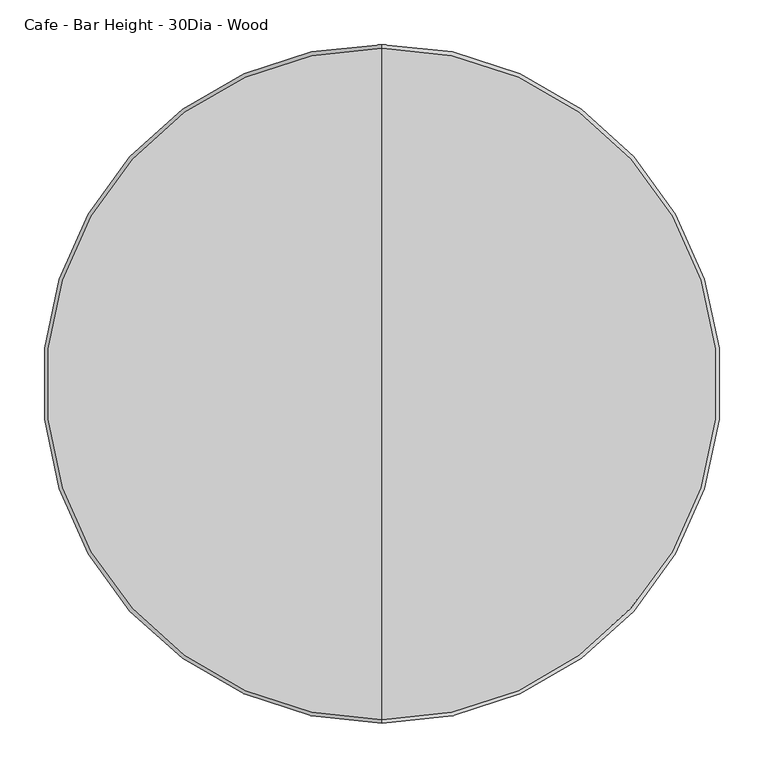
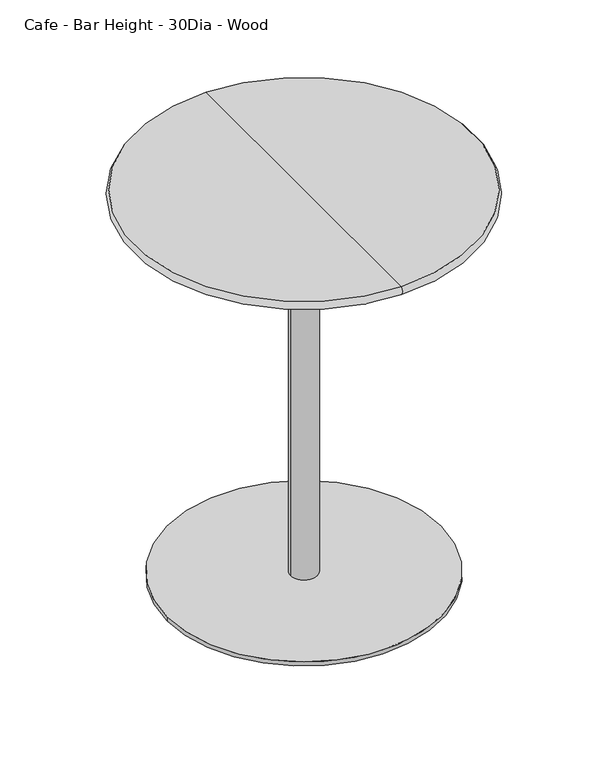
"""IFC4 building model written with IfcOpenShell, lengths in millimetres: furniture geometry, Steelcase Coalesse - Enea - Table - Single Base : Cafe - Bar Height - 30Dia - Wood."""

from ifc_helpers import new_model, si_unit, point, frame, frame_2d, origin, origin_with_axes, place, context, project, spatial, circle_curve, ellipse_curve, trimmed, segment, composite_curve, outline, extrude, source, transform, mapped, element, save
from ifc_brep_helpers import plane_surface, revolved_surface, advanced_brep


def cafe_bar_height_30dia_wood_b145a23f(model_context):
    return source(origin(), model_context, "Body", "SolidModel", [
        extrude(outline(composite_curve([segment(trimmed(circle_curve(frame_2d((537.718, -284.0746893)), 25.4), [point((512.318, -284.0746893))], [point((563.118, -284.0746893))], False, "CARTESIAN"), True, "CONTINUOUS"), segment(trimmed(circle_curve(frame_2d((537.718, -284.0746893)), 25.4), [point((563.118, -284.0746893))], [point((512.318, -284.0746893))], False, "CARTESIAN"), True, "CONTINUOUS")], self_intersect=False)), origin_with_axes(), (0.0, 0.0, 1.0), 6.35),
        extrude(outline(composite_curve([segment(trimmed(circle_curve(frame_2d((791.3613107, -537.3772238)), 25.4), [point((765.9613107, -537.3772238))], [point((816.7613107, -537.3772238))], False, "CARTESIAN"), True, "CONTINUOUS"), segment(trimmed(circle_curve(frame_2d((791.3613107, -537.3772238)), 25.4), [point((816.7613107, -537.3772238))], [point((765.9613107, -537.3772238))], False, "CARTESIAN"), True, "CONTINUOUS")], self_intersect=False)), origin_with_axes(), (0.0, 0.0, 1.0), 6.35),
        extrude(outline(composite_curve([segment(trimmed(circle_curve(frame_2d((284.0746893, -537.3772238)), 25.4), [point((258.6746893, -537.3772238))], [point((309.4746893, -537.3772238))], False, "CARTESIAN"), True, "CONTINUOUS"), segment(trimmed(circle_curve(frame_2d((284.0746893, -537.3772238)), 25.4), [point((309.4746893, -537.3772238))], [point((258.6746893, -537.3772238))], False, "CARTESIAN"), True, "CONTINUOUS")], self_intersect=False)), origin_with_axes(), (0.0, 0.0, 1.0), 6.35),
        extrude(outline(composite_curve([segment(trimmed(circle_curve(frame_2d((537.718, -790.6797584)), 25.4), [point((512.318, -790.6797584))], [point((563.118, -790.6797584))], False, "CARTESIAN"), True, "CONTINUOUS"), segment(trimmed(circle_curve(frame_2d((537.718, -790.6797584)), 25.4), [point((563.118, -790.6797584))], [point((512.318, -790.6797584))], False, "CARTESIAN"), True, "CONTINUOUS")], self_intersect=False)), origin_with_axes(), (0.0, 0.0, 1.0), 6.35),
        advanced_brep(
        [(537.718, -914.4075871, 914.4), (537.718, -161.0284129, 914.4), (537.718, -537.718, 914.4), (537.718, -914.4075871, 895.35), (537.718, -161.0284129, 895.35), (537.718, -537.718, 895.35)],
        [
            (0, 1, circle_curve(frame((537.718, -537.718, 914.4), z_axis=(0.0, 0.0, 1.0), x_axis=(0.0, 1.0, 0.0)), 376.6895871)),
            (1, 2),
            (2, 0),
            (1, 0, circle_curve(frame((537.718, -537.718, 914.4), z_axis=(0.0, 0.0, 1.0), x_axis=(0.0, 1.0, 0.0)), 376.6895871)),
            (3, 4, circle_curve(frame((537.718, -537.718, 895.35), z_axis=(0.0, 0.0, 1.0), x_axis=(0.0, 1.0, 0.0)), 376.6895871)),
            (4, 1, circle_curve(frame((537.718, -169.3968446, 904.875), z_axis=(1.0, 0.0, 0.0), x_axis=(0.0, -1.0, 0.0)), 12.6789697)),
            (0, 3, circle_curve(frame((537.718, -906.0391554, 904.875), z_axis=(1.0, 0.0, 0.0), x_axis=(0.0, 1.0, 0.0)), 12.6789697)),
            (4, 3, circle_curve(frame((537.718, -537.718, 895.35), z_axis=(0.0, 0.0, 1.0), x_axis=(0.0, 1.0, 0.0)), 376.6895871)),
            (5, 4),
            (3, 5),
        ],
        [
            plane_surface(frame((537.718, -537.718, 914.4), z_axis=(0.0, 0.0, 1.0), x_axis=(0.0, 1.0, 0.0))),
            revolved_surface(trimmed(ellipse_curve(frame((537.718, -169.3968446, 904.875), z_axis=(-1.0, 0.0, 0.0), x_axis=(0.0, -1.0, 0.0)), 12.6789697, 12.6789697), [point((537.718, -161.0284129, 914.4))], [point((537.718, -161.0284129, 895.35))], True, "CARTESIAN"), (537.718, -537.718, 955.9678651), (0.0, 0.0, -1.0)),
            plane_surface(frame((537.718, -537.718, 895.35), z_axis=(0.0, 0.0, -1.0), x_axis=(0.0, 1.0, 0.0))),
        ],
        [
            (0, [[1, 2, 3]]),
            (0, [[4, -3, -2]]),
            (1, [[5, 6, -1, 7]]),
            (1, [[8, -7, -4, -6]]),
            (2, [[9, -5, 10]]),
            (2, [[-10, -8, -9]]),
        ],
    ),
        extrude(outline(composite_curve([segment(trimmed(circle_curve(frame_2d((537.718, -537.718)), 304.8), [point((842.518, -537.718))], [point((232.918, -537.718))], False, "CARTESIAN"), True, "CONTINUOUS"), segment(trimmed(circle_curve(frame_2d((537.718, -537.718)), 304.8), [point((232.918, -537.718))], [point((842.518, -537.718))], False, "CARTESIAN"), True, "CONTINUOUS")], self_intersect=False)), frame((0.0, 0.0, 6.35), z_axis=(0.0, 0.0, 1.0), x_axis=(1.0, 0.0, 0.0)), (0.0, 0.0, 1.0), 9.525),
        extrude(outline(composite_curve([segment(trimmed(circle_curve(frame_2d((537.7182907, -537.7179273)), 30.0214725), [point((567.7397632, -537.7179273))], [point((507.6968182, -537.7179273))], False, "CARTESIAN"), True, "CONTINUOUS"), segment(trimmed(circle_curve(frame_2d((537.7182907, -537.7179273)), 30.0214725), [point((507.6968182, -537.7179273))], [point((567.7397632, -537.7179273))], False, "CARTESIAN"), True, "CONTINUOUS")], self_intersect=False)), frame((0.0, 0.0, 15.875), z_axis=(0.0, 0.0, 1.0), x_axis=(1.0, 0.0, 0.0)), (0.0, 0.0, 1.0), 879.475),
    ])


if __name__ == "__main__":
    model = new_model("IFC4")
    model_context = context("Model", 3, world=origin())
    ifc_project = project(units=[si_unit("LENGTHUNIT", "METRE", prefix="MILLI")], contexts=[model_context])
    site = spatial("IfcSite", under=ifc_project)
    building = spatial("IfcBuilding", under=site)
    placement = place(None, origin())
    cafe_bar_height_30dia_wood_shape = cafe_bar_height_30dia_wood_b145a23f(model_context)
    element("IfcFurniture", 1, ObjectType="Steelcase Coalesse - Enea - Table - Single Base : Cafe - Bar Height - 30Dia - Wood", at=placement, inside=building, context=model_context, shape_type="MappedRepresentation", body=[
        mapped(cafe_bar_height_30dia_wood_shape, transform((0.0, 0.0, 0.0), x_axis=(1.0, 0.0, 0.0), y_axis=(0.0, 1.0, 0.0), z_axis=(0.0, 0.0, 1.0))),
    ])
    save(model, "model.ifc")
